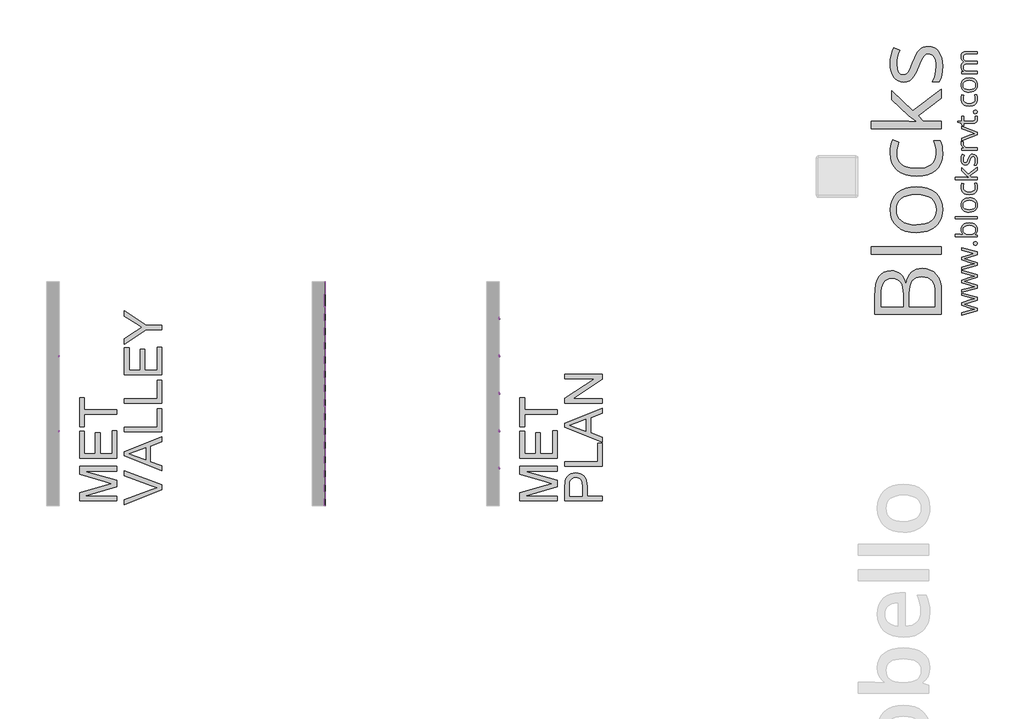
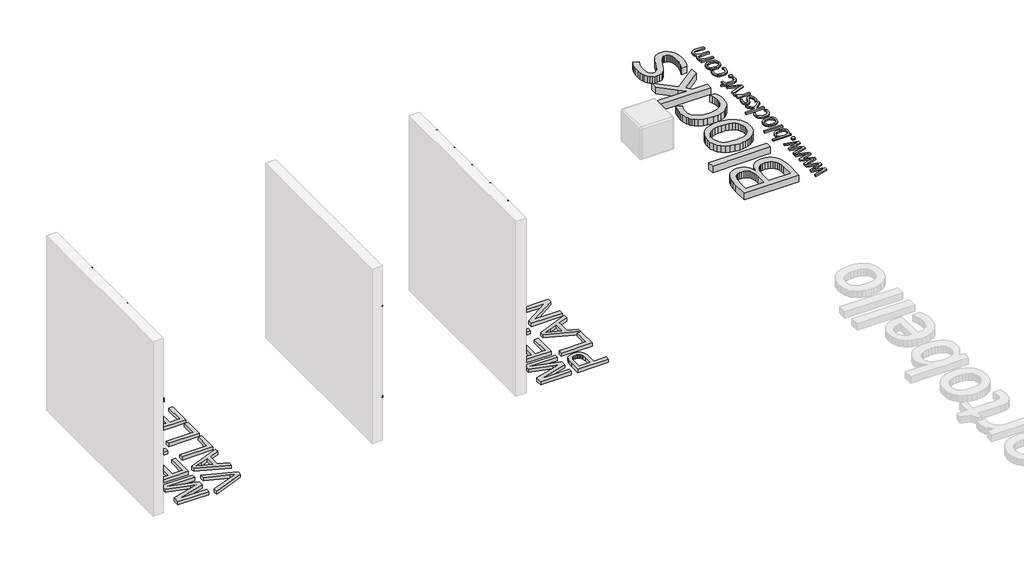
# One storey, part 4 of 4: 31 proxies.
"""IFC4 building model written with IfcOpenShell, lengths in millimetres."""

from ifc_helpers import new_model, si_unit, origin, origin_with_axes, place, context, project, spatial, polyline, outline, extrude, transform, mapped, element, save
from components import black_ff7de772, black_b44c82f6, met_mid_plan_silver_1x120_7f78d727, met_mid_plan_silver_1x120_49bd4cae, met_plan_black_fe5eff52, met_plan_silver_a67b7665, met_plan_silver_266e2bea

model = new_model("IFC4")

# Units and contexts
model_context = context("Model", 3, world=origin())
ifc_project = project(units=[si_unit("LENGTHUNIT", "METRE", prefix="MILLI")], contexts=[model_context])

# Site, building, storey
site = spatial("IfcSite", under=ifc_project)
building = spatial("IfcBuilding", under=site)
storey = spatial("IfcBuildingStorey", under=building, Name="PORTOBELLO - SHOWROOM", Elevation=0.0)

# Proxies
placement = place(None, origin())
element("IfcBuildingElementProxy", 1, Name="25mm OpenSans", ObjectType="25mm OpenSans", at=placement, inside=storey, context=model_context, shape_type="SweptSolid", body=[
    extrude(outline(polyline([(63672.8942842, 26301.8074935), (63563.0826408, 26267.3273871), (63517.3590214, 26255.1094363), (63563.4574246, 26241.6921775), (63672.8942842, 26206.1626765), (63672.8942842, 26173.2566619), (63485.8022284, 26121.911286), (63485.8022284, 26151.7440738), (63593.1402988, 26179.4780724), (63642.8366262, 26190.4217584), (63617.6511571, 26197.8424769), (63593.1402988, 26205.1882387), (63485.8022284, 26239.6683452), (63485.8022284, 26270.5505275), (63593.2152556, 26304.2061096), (63642.5367992, 26317.2485847), (63623.5727406, 26322.3456439), (63485.8022284, 26358.1000151), (63485.8022284, 26387.6329759), (63672.8942842, 26335.6129892), (63672.8942842, 26301.8074935)])), origin_with_axes(), (0.0, 0.0, 1.0), 20.0),
    extrude(outline(polyline([(63672.8942842, 26575.2497289), (63563.0826408, 26540.7696225), (63517.3590214, 26528.5516717), (63563.4574246, 26515.1344129), (63672.8942842, 26479.604912), (63672.8942842, 26446.6988973), (63485.8022284, 26395.3535214), (63485.8022284, 26425.1863092), (63593.1402988, 26452.9203078), (63642.8366262, 26463.8639938), (63617.6511571, 26471.2847124), (63593.1402988, 26478.6304742), (63485.8022284, 26513.1105806), (63485.8022284, 26543.9927629), (63593.2152556, 26577.6483451), (63642.5367992, 26590.6908201), (63623.5727406, 26595.7878793), (63485.8022284, 26631.5422506), (63485.8022284, 26661.0752113), (63672.8942842, 26609.0552246), (63672.8942842, 26575.2497289)])), origin_with_axes(), (0.0, 0.0, 1.0), 20.0),
    extrude(outline(polyline([(63672.8942842, 26848.6919644), (63563.0826408, 26814.2118579), (63517.3590214, 26801.9939072), (63563.4574246, 26788.5766484), (63672.8942842, 26753.0471474), (63672.8942842, 26720.1411328), (63485.8022284, 26668.7957569), (63485.8022284, 26698.6285446), (63593.1402988, 26726.3625433), (63642.8366262, 26737.3062292), (63617.6511571, 26744.7269478), (63593.1402988, 26752.0727096), (63485.8022284, 26786.552816), (63485.8022284, 26817.4349983), (63593.2152556, 26851.0905805), (63642.5367992, 26864.1330555), (63623.5727406, 26869.2301147), (63485.8022284, 26904.984486), (63485.8022284, 26934.5174467), (63672.8942842, 26882.49746), (63672.8942842, 26848.6919644)])), origin_with_axes(), (0.0, 0.0, 1.0), 20.0),
    extrude(outline(polyline([(63653.7803121, 26963.6756237), (63643.370693, 26964.9779973), (63635.8281697, 26968.885118), (63631.2464382, 26975.2283333), (63629.7191944, 26983.8389903), (63631.2464382, 26992.7026263), (63635.8281697, 26999.3550382), (63643.370693, 27003.515138), (63653.7803121, 27004.9018379), (63663.9838001, 27003.4870292), (63671.5075842, 26999.242603), (63676.1455333, 26992.5620824), (63677.6915164, 26983.8389903), (63672.1072383, 26969.4098153), (63664.7333677, 26965.1091716), (63653.7803121, 26963.6756237)])), origin_with_axes(), (0.0, 0.0, 1.0), 20.0),
    extrude(outline(polyline([(63481.0049962, 27152.0419443), (63482.6048544, 27169.6263301), (63487.404429, 27185.1259812), (63495.40372, 27198.5408976), (63506.6027274, 27209.8710793), (63520.7250481, 27218.8729169), (63537.4942792, 27225.3028009), (63578.9734725, 27230.4467081), (63620.5932097, 27225.2559529), (63637.4819031, 27218.767509), (63651.7564798, 27209.6836875), (63663.1030583, 27198.2996306), (63671.2077572, 27184.9104805), (63676.0705766, 27169.5162374), (63677.6915164, 27152.116901), (63675.9768806, 27134.4739553), (63670.8329735, 27118.4238405), (63662.1286205, 27104.4162973), (63649.7326475, 27092.9010661), (63649.7326475, 27090.802277), (63672.8942842, 27084.8057367), (63672.8942842, 27064.4924566), (63409.0465132, 27064.4924566), (63409.0465132, 27092.8261093), (63471.635402, 27092.8261093), (63509.4136056, 27091.4768878), (63496.984839, 27104.0321439), (63488.1071485, 27117.6367946), (63482.7805342, 27133.6400614), (63481.0049962, 27152.0419443)]), holes=[polyline([(63504.9911572, 27148.0692364), (63509.2262137, 27122.799441), (63521.9313834, 27105.7561492), (63544.6620188, 27096.0586193), (63578.9734725, 27092.8261093), (63613.4254702, 27096.1523152), (63636.4278238, 27106.130933), (63649.3859725, 27123.4365734), (63653.7053554, 27148.7438472), (63648.8612752, 27171.8211575), (63634.3290347, 27188.1336209), (63610.727027, 27197.8311509), (63578.6736455, 27201.0636608), (63546.226741, 27197.8311509), (63523.2431265, 27188.1336209), (63509.5541495, 27171.6525048), (63504.9911572, 27148.0692364)])]), origin_with_axes(), (0.0, 0.0, 1.0), 20.0),
    extrude(outline(polyline([(63672.8942842, 27307.7271205), (63672.8942842, 27279.3934679), (63409.0465132, 27279.3934679), (63409.0465132, 27307.7271205), (63672.8942842, 27307.7271205)])), origin_with_axes(), (0.0, 0.0, 1.0), 20.0),
    extrude(outline(polyline([(63579.1983428, 27532.6723367), (63601.1255354, 27531.2317616), (63620.5088833, 27526.9100363), (63637.3483864, 27519.7071608), (63651.6440447, 27509.6231351), (63663.0398135, 27497.0046342), (63671.1796484, 27482.1983331), (63676.0635494, 27465.2042317), (63677.6915164, 27446.0223301), (63674.7026158, 27422.3266265), (63665.7359142, 27401.4605403), (63651.1849345, 27384.2298567), (63631.4431997, 27371.4403607), (63607.2134292, 27363.5136841), (63579.1983428, 27360.8714585), (63557.2805197, 27362.3003216), (63537.9252806, 27366.5869109), (63521.1326255, 27373.7312265), (63506.9025544, 27383.7332682), (63495.5723726, 27396.27447), (63487.4793857, 27411.0362656), (63482.6235935, 27428.0186549), (63481.0049962, 27447.2216381), (63482.6610719, 27465.8179401), (63487.6292992, 27482.4044641), (63495.909678, 27496.9812102), (63507.5022084, 27509.5481784), (63521.9196714, 27519.6649976), (63538.6748481, 27526.8912971), (63557.7677386, 27531.2270768), (63579.1983428, 27532.6723367)]), holes=[polyline([(63578.9734725, 27390.3294625), (63611.1299196, 27393.9086475), (63634.5913833, 27404.6462023), (63648.9268624, 27422.3172569), (63653.7053554, 27446.6969409), (63648.9456015, 27471.095364), (63634.6663401, 27488.8226361), (63611.2236155, 27499.6164086), (63578.9734725, 27503.2143327), (63547.0512653, 27499.6164086), (63523.8427806, 27488.8226361), (63509.704063, 27471.0016681), (63504.9911572, 27446.3221571), (63509.6384759, 27421.9893211), (63523.5804319, 27404.4588105), (63546.7233295, 27393.8617995), (63578.9734725, 27390.3294625)])]), origin_with_axes(), (0.0, 0.0, 1.0), 20.0),
    extrude(outline(polyline([(63677.6915164, 27658.0749847), (63676.1057126, 27638.7314576), (63671.3483011, 27621.7022202), (63663.4192821, 27606.9872726), (63652.3186554, 27594.5866148), (63638.3181394, 27584.7485409), (63621.6894522, 27577.7213453), (63580.5475643, 27572.0995888), (63558.1003592, 27573.5261095), (63538.3562819, 27577.8056717), (63521.3153326, 27584.9382752), (63506.9775111, 27594.9239202), (63495.6145358, 27607.5471059), (63487.4981249, 27622.5923317), (63482.6282783, 27640.0595975), (63481.0049962, 27659.9489035), (63483.778396, 27687.1956833), (63490.2996335, 27708.5208795), (63513.7610973, 27699.7509394), (63507.5022084, 27679.0253972), (63504.9911572, 27659.199336), (63509.680639, 27633.9810733), (63523.7490846, 27615.9680286), (63547.196494, 27605.1602018), (63580.022867, 27601.5575928), (63611.4859642, 27605.0711906), (63634.6663401, 27615.611984), (63648.9456015, 27633.0487987), (63653.7053554, 27657.2504604), (63651.175565, 27681.2178822), (63643.5861937, 27705.7474797), (63668.2469655, 27705.7474797), (63675.3303786, 27684.3473267), (63677.6915164, 27658.0749847)])), origin_with_axes(), (0.0, 0.0, 1.0), 20.0),
    extrude(outline(polyline([(63579.0484293, 27777.3311789), (63551.1645171, 27800.1929886), (63485.8022284, 27860.1583911), (63485.8022284, 27893.5141463), (63565.5562137, 27818.2575661), (63672.8942842, 27898.761119), (63672.8942842, 27864.6557963), (63586.5441046, 27799.0686373), (63604.5337253, 27778.0807464), (63672.8942842, 27778.0807464), (63672.8942842, 27750.0469208), (63409.0465132, 27750.0469208), (63409.0465132, 27778.0807464), (63550.0401658, 27778.0807464), (63579.0484293, 27777.3311789)])), origin_with_axes(), (0.0, 0.0, 1.0), 20.0),
    extrude(outline(polyline([(63622.4483893, 28059.0186572), (63645.9379618, 28054.1183594), (63663.3372981, 28039.4174662), (63674.1029618, 28015.8716762), (63677.6915164, 27984.4366878), (63674.7307246, 27951.1371502), (63665.8483494, 27926.0453771), (63639.3136588, 27926.0453771), (63649.8450826, 27955.2035541), (63653.7053554, 27985.1862553), (63651.9251325, 28005.002947), (63646.5844638, 28019.6288834), (63637.5896534, 28028.6518026), (63624.8470054, 28031.6594423), (63614.559191, 28029.2701958), (63605.8829469, 28022.1024563), (63587.2936721, 27984.8864283), (63570.0536189, 27947.4830085), (63553.3757413, 27930.9550445), (63531.0011505, 27925.5206799), (63510.2756083, 27930.2054769), (63494.422255, 27944.2598681), (63484.3593109, 27966.4845454), (63481.0049962, 27995.6802008), (63484.1157014, 28025.7191196), (63493.4478172, 28055.120906), (63516.6094539, 28044.9267876), (63507.8957313, 28017.8673997), (63504.9911572, 27993.5064549), (63506.5933578, 27975.6854869), (63511.3999596, 27962.8491429), (63519.0361788, 27955.091119), (63529.1272317, 27952.505111), (63542.1322283, 27956.3653838), (63552.3263468, 27968.8456832), (63566.380738, 28001.9016113), (63578.7111239, 28029.9822849), (63591.1164665, 28047.2129686), (63605.1708577, 28056.067235), (63622.4483893, 28059.0186572)])), origin_with_axes(), (0.0, 0.0, 1.0), 20.0),
    extrude(outline(polyline([(63481.0049962, 28191.46724), (63482.878915, 28214.1041794), (63507.5396868, 28210.1314715), (63504.9911572, 28189.4434076), (63509.6853238, 28168.1088418), (63523.7678238, 28150.1285906), (63544.8587802, 28137.9012703), (63570.5783161, 28133.8254968), (63672.8942842, 28133.8254968), (63672.8942842, 28105.4918441), (63485.8022284, 28105.4918441), (63485.8022284, 28128.8783511), (63519.3828538, 28132.1014915), (63503.0610208, 28145.087749), (63490.9742443, 28158.8610524), (63483.4973082, 28174.4333178), (63481.0049962, 28191.46724)])), origin_with_axes(), (0.0, 0.0, 1.0), 20.0),
    extrude(outline(polyline([(63672.8942842, 28291.0847649), (63485.8022284, 28219.1262819), (63485.8022284, 28249.9335074), (63596.738223, 28290.7849379), (63647.2590746, 28306.9755965), (63609.780698, 28320.3928553), (63485.8022284, 28365.8166477), (63485.8022284, 28396.6238733), (63672.8942842, 28324.6653903), (63672.8942842, 28291.0847649)])), origin_with_axes(), (0.0, 0.0, 1.0), 20.0),
    extrude(outline(polyline([(63653.7053554, 28487.9961554), (63652.5810041, 28502.687679), (63650.2573447, 28513.9311919), (63672.4445437, 28513.9311919), (63676.1923813, 28500.2141061), (63677.6915164, 28483.9484907), (63674.1310706, 28459.9435905), (63663.4497333, 28442.7972332), (63645.6475044, 28432.5094188), (63620.724384, 28429.0801474), (63509.7883894, 28429.0801474), (63509.7883894, 28401.9458028), (63495.7714765, 28401.9458028), (63483.6284825, 28428.9302339), (63442.6271386, 28440.9982711), (63442.6271386, 28457.4887568), (63485.8022284, 28457.4887568), (63485.8022284, 28512.5819704), (63509.7883894, 28512.5819704), (63509.7883894, 28457.4887568), (63619.0003787, 28457.4887568), (63633.8324462, 28459.5219588), (63644.7480234, 28465.6215645), (63651.4660224, 28475.2816161), (63653.7053554, 28487.9961554)])), origin_with_axes(), (0.0, 0.0, 1.0), 20.0),
    extrude(outline(polyline([(63653.7803121, 28546.7622498), (63643.370693, 28548.0646234), (63635.8281697, 28551.9717441), (63631.2464382, 28558.3149594), (63629.7191944, 28566.9256164), (63631.2464382, 28575.7892525), (63635.8281697, 28582.4416643), (63643.370693, 28586.6017641), (63653.7803121, 28587.988464), (63663.9838001, 28586.5736553), (63671.5075842, 28582.3292292), (63676.1455333, 28575.6487085), (63677.6915164, 28566.9256164), (63672.1072383, 28552.4964414), (63664.7333677, 28548.1957977), (63653.7803121, 28546.7622498)])), origin_with_axes(), (0.0, 0.0, 1.0), 20.0),
    extrude(outline(polyline([(63677.6915164, 28723.0605332), (63676.1057126, 28703.7170061), (63671.3483011, 28686.6877687), (63663.4192821, 28671.9728211), (63652.3186554, 28659.5721633), (63638.3181394, 28649.7340894), (63621.6894522, 28642.7068938), (63580.5475643, 28637.0851373), (63558.1003592, 28638.511658), (63538.3562819, 28642.7912202), (63521.3153326, 28649.9238237), (63506.9775111, 28659.9094687), (63495.6145358, 28672.5326544), (63487.4981249, 28687.5778802), (63482.6282783, 28705.045146), (63481.0049962, 28724.934452), (63483.778396, 28752.1812318), (63490.2996335, 28773.506428), (63513.7610973, 28764.7364879), (63507.5022084, 28744.0109457), (63504.9911572, 28724.1848845), (63509.680639, 28698.9666218), (63523.7490846, 28680.9535771), (63547.196494, 28670.1457503), (63580.022867, 28666.5431413), (63611.4859642, 28670.0567391), (63634.6663401, 28680.5975325), (63648.9456015, 28698.0343472), (63653.7053554, 28722.2360089), (63651.175565, 28746.2034307), (63643.5861937, 28770.7330282), (63668.2469655, 28770.7330282), (63675.3303786, 28749.3328751), (63677.6915164, 28723.0605332)])), origin_with_axes(), (0.0, 0.0, 1.0), 20.0),
    extrude(outline(polyline([(63579.1983428, 28976.639229), (63601.1255354, 28975.1986539), (63620.5088833, 28970.8769286), (63637.3483864, 28963.6740531), (63651.6440447, 28953.5900274), (63663.0398135, 28940.9715265), (63671.1796484, 28926.1652254), (63676.0635494, 28909.171124), (63677.6915164, 28889.9892224), (63674.7026158, 28866.2935188), (63665.7359142, 28845.4274327), (63651.1849345, 28828.196749), (63631.4431997, 28815.407253), (63607.2134292, 28807.4805764), (63579.1983428, 28804.8383508), (63557.2805197, 28806.2672139), (63537.9252806, 28810.5538033), (63521.1326255, 28817.6981188), (63506.9025544, 28827.7001605), (63495.5723726, 28840.2413623), (63487.4793857, 28855.0031579), (63482.6235935, 28871.9855473), (63481.0049962, 28891.1885304), (63482.6610719, 28909.7848324), (63487.6292992, 28926.3713564), (63495.909678, 28940.9481025), (63507.5022084, 28953.5150707), (63521.9196714, 28963.6318899), (63538.6748481, 28970.8581894), (63557.7677386, 28975.1939691), (63579.1983428, 28976.639229)]), holes=[polyline([(63578.9734725, 28834.2963548), (63611.1299196, 28837.8755398), (63634.5913833, 28848.6130947), (63648.9268624, 28866.2841492), (63653.7053554, 28890.6638332), (63648.9456015, 28915.0622563), (63634.6663401, 28932.7895284), (63611.2236155, 28943.5833009), (63578.9734725, 28947.181225), (63547.0512653, 28943.5833009), (63523.8427806, 28932.7895284), (63509.704063, 28914.9685604), (63504.9911572, 28890.2890494), (63509.6384759, 28865.9562134), (63523.5804319, 28848.4257028), (63546.7233295, 28837.8286918), (63578.9734725, 28834.2963548)])]), origin_with_axes(), (0.0, 0.0, 1.0), 20.0),
    extrude(outline(polyline([(63672.8942842, 29265.6724691), (63550.1151225, 29265.6724691), (63530.3733877, 29263.273853), (63516.2721485, 29256.0780047), (63507.811405, 29243.8225755), (63504.9911572, 29226.2452169), (63508.8233212, 29203.1772762), (63520.3198132, 29187.0428351), (63539.7804602, 29177.5420666), (63567.5050893, 29174.3751438), (63672.8942842, 29174.3751438), (63672.8942842, 29145.9665343), (63550.1151225, 29145.9665343), (63530.3733877, 29143.5679182), (63516.2721485, 29136.3720699), (63507.811405, 29124.0791624), (63504.9911572, 29106.3893687), (63509.0200826, 29083.2089928), (63521.1068591, 29067.1869868), (63542.3570986, 29057.854871), (63573.8764133, 29054.7441658), (63672.8942842, 29054.7441658), (63672.8942842, 29026.4105131), (63485.8022284, 29026.4105131), (63485.8022284, 29049.4971931), (63509.7883894, 29054.069555), (63497.7109825, 29065.1537849), (63488.6131066, 29078.1681511), (63482.9070238, 29093.6935686), (63481.0049962, 29110.9617306), (63482.9726109, 29131.0595101), (63488.8754552, 29147.3532343), (63498.7135291, 29159.8429033), (63512.4868325, 29168.528517), (63499.4630966, 29180.1561834), (63489.4751093, 29194.201205), (63483.1225244, 29211.2444967), (63481.0049962, 29230.5177519), (63485.1088784, 29258.3735553), (63497.4205251, 29278.2277252), (63518.7644605, 29290.1177402), (63549.965209, 29294.0810785), (63672.8942842, 29294.0810785), (63672.8942842, 29265.6724691)])), origin_with_axes(), (0.0, 0.0, 1.0), 20.0),
])
element("IfcBuildingElementProxy", 2, Name="450mm Arial", ObjectType="450mm Arial", at=placement, inside=storey, context=model_context, shape_type="SweptSolid", body=[
    extrude(outline(polyline([(58622.423094, 23886.6436163), (58172.7669512, 23886.6436163), (58172.7669512, 23983.3592076), (58489.6998819, 24075.3542876), (58555.8968189, 24093.9069946), (58484.2109153, 24113.9966123), (58172.7669512, 24204.4547817), (58172.7669512, 24301.170373), (58622.423094, 24301.170373), (58622.423094, 24244.9633551), (58228.973969, 24244.9633551), (58622.423094, 24132.0004228), (58622.423094, 24055.8135665), (58228.973969, 23942.8506342), (58622.423094, 23942.8506342), (58622.423094, 23886.6436163)])), origin_with_axes(), (0.0, 0.0, 1.0), 50.0),
    extrude(outline(polyline([(58622.423094, 24399.5326542), (58172.7669512, 24399.5326542), (58172.7669512, 24722.7230069), (58228.973969, 24722.7230069), (58228.973969, 24455.7396721), (58362.4656364, 24455.7396721), (58362.4656364, 24708.6712524), (58418.6726543, 24708.6712524), (58418.6726543, 24455.7396721), (58566.2160761, 24455.7396721), (58566.2160761, 24729.7488841), (58622.423094, 24729.7488841), (58622.423094, 24399.5326542)])), origin_with_axes(), (0.0, 0.0, 1.0), 50.0),
    extrude(outline(polyline([(58622.423094, 24926.4734466), (58228.973969, 24926.4734466), (58228.973969, 24778.9300247), (58172.7669512, 24778.9300247), (58172.7669512, 25130.2238863), (58228.973969, 25130.2238863), (58228.973969, 24982.6804644), (58622.423094, 24982.6804644), (58622.423094, 24926.4734466)])), origin_with_axes(), (0.0, 0.0, 1.0), 50.0),
    extrude(outline(polyline([(59162.8551772, 23886.6436163), (58713.1990343, 23886.6436163), (58713.1990343, 24053.2886419), (58717.4804283, 24120.4735929), (58725.4805971, 24150.4296281), (58738.5031703, 24175.0888105), (58757.1382119, 24194.9451471), (58781.9757857, 24210.4926449), (58811.2731448, 24220.5374538), (58843.2875425, 24223.8857234), (58870.8901832, 24221.6249553), (58896.2835148, 24214.842651), (58919.4675375, 24203.5388104), (58940.442251, 24187.7134336), (58957.8285527, 24165.9874177), (58970.2473396, 24136.9816599), (58977.6986118, 24100.6961602), (58980.1823691, 24057.1309185), (58980.1823691, 23942.8506342), (59162.8551772, 23942.8506342), (59162.8551772, 23886.6436163)]), holes=[polyline([(58923.9753513, 23942.8506342), (58923.9753513, 24060.4242985), (58918.8157227, 24110.2641151), (58912.3661869, 24128.844267), (58903.3368369, 24143.1979146), (58891.9678149, 24153.9082606), (58878.4992631, 24161.5585078), (58862.9311816, 24166.1486561), (58845.2635704, 24167.6787056), (58820.0143241, 24164.06971), (58798.7171338, 24153.2427234), (58782.6893513, 24136.5425426), (58773.2483288, 24115.3139643), (58769.4060522, 24059.1069465), (58769.4060522, 23942.8506342), (58923.9753513, 23942.8506342)])]), origin_with_axes(), (0.0, 0.0, 1.0), 50.0),
    extrude(outline(polyline([(59162.8551772, 24301.170373), (58713.1990343, 24301.170373), (58713.1990343, 24357.3773908), (59106.6481593, 24357.3773908), (59106.6481593, 24582.2054622), (59162.8551772, 24582.2054622), (59162.8551772, 24301.170373)])), origin_with_axes(), (0.0, 0.0, 1.0), 50.0),
    extrude(outline(polyline([(59162.8551772, 24593.0736161), (58713.1990343, 24772.5628235), (58713.1990343, 24820.4266121), (59162.8551772, 24999.9158195), (59162.8551772, 24940.525201), (59022.3376325, 24889.0386945), (59022.3376325, 24703.8409618), (59162.8551772, 24652.4642345), (59162.8551772, 24593.0736161)]), holes=[polyline([(58966.1306147, 24724.4794762), (58966.1306147, 24868.5099594), (58855.5828276, 24828.001386), (58769.4060522, 24796.4947178), (58845.9222464, 24768.5009882), (58966.1306147, 24724.4794762)])]), origin_with_axes(), (0.0, 0.0, 1.0), 50.0),
    extrude(outline(polyline([(59162.8551772, 25059.965114), (58713.1990343, 25059.965114), (58713.1990343, 25120.1241878), (59069.4329658, 25355.0519577), (58713.1990343, 25355.0519577), (58713.1990343, 25411.2589755), (59162.8551772, 25411.2589755), (59162.8551772, 25351.0999018), (58806.5114663, 25116.1721318), (59162.8551772, 25116.1721318), (59162.8551772, 25059.965114)])), origin_with_axes(), (0.0, 0.0, 1.0), 50.0),
])
element("IfcBuildingElementProxy", 3, Name="450mm Arial", ObjectType="450mm Arial", at=placement, inside=storey, context=model_context, shape_type="SweptSolid", body=[
    extrude(outline(polyline([(53322.423094, 23886.6436163), (52872.7669512, 23886.6436163), (52872.7669512, 23983.3592076), (53189.6998819, 24075.3542876), (53255.8968189, 24093.9069946), (53184.2109153, 24113.9966123), (52872.7669512, 24204.4547817), (52872.7669512, 24301.170373), (53322.423094, 24301.170373), (53322.423094, 24244.9633551), (52928.973969, 24244.9633551), (53322.423094, 24132.0004228), (53322.423094, 24055.8135665), (52928.973969, 23942.8506342), (53322.423094, 23942.8506342), (53322.423094, 23886.6436163)])), origin_with_axes(), (0.0, 0.0, 1.0), 50.0),
    extrude(outline(polyline([(53322.423094, 24399.5326542), (52872.7669512, 24399.5326542), (52872.7669512, 24722.7230069), (52928.973969, 24722.7230069), (52928.973969, 24455.7396721), (53062.4656364, 24455.7396721), (53062.4656364, 24708.6712524), (53118.6726543, 24708.6712524), (53118.6726543, 24455.7396721), (53266.2160761, 24455.7396721), (53266.2160761, 24729.7488841), (53322.423094, 24729.7488841), (53322.423094, 24399.5326542)])), origin_with_axes(), (0.0, 0.0, 1.0), 50.0),
    extrude(outline(polyline([(53322.423094, 24926.4734466), (52928.973969, 24926.4734466), (52928.973969, 24778.9300247), (52872.7669512, 24778.9300247), (52872.7669512, 25130.2238863), (52928.973969, 25130.2238863), (52928.973969, 24982.6804644), (53322.423094, 24982.6804644), (53322.423094, 24926.4734466)])), origin_with_axes(), (0.0, 0.0, 1.0), 50.0),
    extrude(outline(polyline([(53862.8551772, 24248.8056317), (53413.1990343, 24428.2948391), (53413.1990343, 24476.1586278), (53862.8551772, 24655.6478352), (53862.8551772, 24596.2572167), (53722.3376325, 24544.7707101), (53722.3376325, 24359.5729775), (53862.8551772, 24308.1962502), (53862.8551772, 24248.8056317)]), holes=[polyline([(53666.1306147, 24380.2114918), (53666.1306147, 24524.2419751), (53555.5828276, 24483.7334017), (53469.4060522, 24452.2267334), (53545.9222464, 24424.2330039), (53666.1306147, 24380.2114918)])]), origin_with_axes(), (0.0, 0.0, 1.0), 50.0),
    extrude(outline(polyline([(53862.8551772, 24019.4766077), (53413.1990343, 23840.536297), (53413.1990343, 23900.6953708), (53737.1578423, 24020.4646217), (53810.1610979, 24044.725854), (53737.1578423, 24068.6577483), (53413.1990343, 24188.7563373), (53413.1990343, 24248.9154111), (53862.8551772, 24077.5498742), (53862.8551772, 24019.4766077)])), origin_with_axes(), (0.0, 0.0, 1.0), 50.0),
    extrude(outline(polyline([(53862.8551772, 24715.6971296), (53413.1990343, 24715.6971296), (53413.1990343, 24771.9041475), (53806.6481593, 24771.9041475), (53806.6481593, 24996.7322189), (53862.8551772, 24996.7322189), (53862.8551772, 24715.6971296)])), origin_with_axes(), (0.0, 0.0, 1.0), 50.0),
    extrude(outline(polyline([(53862.8551772, 25059.965114), (53413.1990343, 25059.965114), (53413.1990343, 25116.1721318), (53806.6481593, 25116.1721318), (53806.6481593, 25341.0002032), (53862.8551772, 25341.0002032), (53862.8551772, 25059.965114)])), origin_with_axes(), (0.0, 0.0, 1.0), 50.0),
    extrude(outline(polyline([(53862.8551772, 25404.2330983), (53413.1990343, 25404.2330983), (53413.1990343, 25727.423451), (53469.4060522, 25727.423451), (53469.4060522, 25460.4401162), (53602.8977196, 25460.4401162), (53602.8977196, 25713.3716965), (53659.1047374, 25713.3716965), (53659.1047374, 25460.4401162), (53806.6481593, 25460.4401162), (53806.6481593, 25734.4493282), (53862.8551772, 25734.4493282), (53862.8551772, 25404.2330983)])), origin_with_axes(), (0.0, 0.0, 1.0), 50.0),
    extrude(outline(polyline([(53862.8551772, 25945.2256451), (53672.3880366, 25945.2256451), (53413.1990343, 25769.5787144), (53413.1990343, 25835.8854307), (53551.6307717, 25929.63698), (53622.218882, 25977.610548), (53546.5809224, 26025.6938953), (53413.1990343, 26110.7728774), (53413.1990343, 26177.0795938), (53672.3880366, 26001.432663), (53862.8551772, 26001.432663), (53862.8551772, 25945.2256451)])), origin_with_axes(), (0.0, 0.0, 1.0), 50.0),
])
element("IfcBuildingElementProxy", 4, Name="80mm OpenSans", ObjectType="80mm OpenSans", at=placement, inside=storey, context=model_context, shape_type="SweptSolid", body=[
    extrude(outline(polyline([(62443.5108772, 26130.9533394), (62443.5108772, 26355.93646), (62446.4478563, 26429.7665579), (62455.2587939, 26492.6149076), (62469.9436897, 26544.4815091), (62490.5025439, 26585.3663624), (62517.4010667, 26616.3360942), (62551.1049684, 26638.4573311), (62591.6142489, 26651.7300733), (62638.9289082, 26656.1543207), (62672.5877411, 26653.6830518), (62703.1368314, 26646.2692451), (62730.576179, 26633.9129005), (62754.9057839, 26616.614018), (62775.6899818, 26594.5829185), (62792.4931082, 26568.0299227), (62805.315163, 26536.9550305), (62814.1561464, 26501.358242), (62819.4442112, 26501.358242), (62829.3593327, 26543.8918598), (62843.3606861, 26580.7543286), (62861.4482713, 26611.9456483), (62883.6220885, 26637.465819), (62909.8821376, 26657.3148406), (62940.2284185, 26671.4927132), (62974.6609314, 26679.9994368), (63013.1796761, 26682.8350113), (63064.4153153, 26678.3206265), (63109.7169045, 26664.7774719), (63149.0844438, 26642.2055475), (63182.517933, 26610.6048535), (63209.1760892, 26570.9068102), (63228.2176294, 26524.0428382), (63239.6425535, 26470.0129375), (63243.4508615, 26408.817108), (63243.4508615, 26130.9533394), (62443.5108772, 26130.9533394)]), holes=[polyline([(62781.9470244, 26223.9752066), (62781.9470244, 26375.8868863), (62780.0165803, 26421.3687505), (62774.225248, 26459.9851441), (62764.5730274, 26491.7360673), (62751.0599186, 26516.62152), (62732.9798448, 26535.3926477), (62709.6267291, 26548.8005961), (62681.0005715, 26556.8453652), (62647.101372, 26559.5269548), (62615.8987851, 26556.5373955), (62589.3533007, 26547.5687174), (62567.4649188, 26532.6209206), (62550.2336395, 26511.6940051), (62537.1937524, 26484.2621689), (62527.8795474, 26449.7996102), (62522.2910244, 26408.306329), (62520.4281834, 26359.7823253), (62520.4281834, 26223.9752066), (62781.9470244, 26223.9752066)]), polyline([(62858.8643306, 26223.9752066), (63166.5335553, 26223.9752066), (63166.5335553, 26389.5877815), (63164.122378, 26434.6940729), (63156.8888462, 26473.8663142), (63144.8329599, 26507.1045056), (63127.9547189, 26534.408647), (63105.9536652, 26555.7036239), (63078.5293405, 26570.9143217), (63045.6817449, 26580.0407403), (63007.4108782, 26583.0828799), (62971.7164407, 26579.9731372), (62941.0697016, 26570.6439092), (62915.4706606, 26555.095196), (62894.9193179, 26533.3269974), (62879.1452609, 26505.2191303), (62867.8780774, 26470.6514112), (62861.1177673, 26429.6238403), (62858.8643306, 26382.1364174), (62858.8643306, 26223.9752066)])]), origin_with_axes(), (0.0, 0.0, 1.0), 100.0),
    extrude(outline(polyline([(63243.4508615, 26944.5942189), (63243.4508615, 26853.735651), (62397.3604935, 26853.735651), (62397.3604935, 26944.5942189), (63243.4508615, 26944.5942189)])), origin_with_axes(), (0.0, 0.0, 1.0), 100.0),
    extrude(outline(polyline([(62942.9926342, 27665.934331), (63013.3073709, 27661.3147858), (63075.4646666, 27647.45615), (63129.4645215, 27624.3584238), (63175.3069356, 27592.0216071), (63211.8501675, 27551.5573953), (63237.9524759, 27504.077484), (63253.613861, 27449.581873), (63258.8343227, 27388.0705624), (63256.4381684, 27348.9433898), (63249.2497053, 27312.0846767), (63237.2689335, 27277.4944233), (63220.4958529, 27245.1726295), (63199.2459448, 27215.7652805), (63173.8346902, 27189.9183615), (63144.2620892, 27167.6318725), (63110.5281418, 27148.9058135), (63073.196207, 27134.0782), (63032.8296442, 27123.4870475), (62989.4284532, 27117.132356), (62942.9926342, 27115.0141254), (62872.7079434, 27119.5961134), (62810.6407851, 27133.3420773), (62756.7911593, 27156.2520171), (62711.159066, 27188.3259329), (62674.8261549, 27228.5422666), (62648.8740755, 27275.8794603), (62633.3028279, 27330.337514), (62628.112412, 27391.9164277), (62633.4230112, 27451.5498744), (62649.3548087, 27504.7384921), (62675.9078045, 27551.4822808), (62713.0819987, 27591.7812405), (62759.3150084, 27624.2232176), (62813.0444509, 27647.3960584), (62874.2703262, 27661.2997628), (62942.9926342, 27665.934331)]), holes=[polyline([(62942.2715345, 27209.4781921), (62997.3154817, 27212.3475682), (63045.3887981, 27220.9556964), (63086.4914836, 27235.3025767), (63120.6235382, 27255.3882092), (63147.439435, 27281.0323189), (63166.593647, 27312.0546309), (63178.0861742, 27348.4551451), (63181.9170166, 27390.2338616), (63178.1011971, 27432.0276011), (63166.6537386, 27468.473184), (63147.5746412, 27499.5706106), (63120.8639048, 27525.3198806), (63086.8069647, 27545.5106735), (63045.6892563, 27559.9326684), (62997.5107796, 27568.5858654), (62942.2715345, 27571.4702643), (62887.5956486, 27568.5858654), (62839.9054164, 27559.9326684), (62799.2008381, 27545.5106735), (62765.4819135, 27525.3198806), (62739.0340781, 27499.495496), (62720.142767, 27468.1727258), (62708.8079804, 27431.35157), (62705.0297182, 27389.0320287), (62708.7554002, 27347.2908695), (62719.9324463, 27311.0030271), (62738.5608564, 27280.1685015), (62764.6406305, 27254.7872928), (62798.0966541, 27234.9645612), (62838.8538126, 27220.8054673), (62886.9121061, 27212.3100109), (62942.2715345, 27209.4781921)])]), origin_with_axes(), (0.0, 0.0, 1.0), 100.0),
    extrude(outline(polyline([(63258.8343227, 28068.0676224), (63253.7490672, 28006.0380214), (63238.4933008, 27951.4297386), (63213.0670233, 27904.242774), (63177.4702348, 27864.4771276), (63132.5742642, 27832.9290137), (63079.2504403, 27810.3946467), (63017.4987631, 27796.8740265), (62947.3192327, 27792.367153), (62875.3369529, 27796.9416296), (62812.0228929, 27810.6650591), (62757.3770529, 27833.5374416), (62711.3994326, 27865.5587772), (62691.8790372, 27884.8275389), (62674.9613611, 27906.0380119), (62660.6464044, 27929.1901962), (62648.9341672, 27954.2840917), (62633.3178508, 28010.2970168), (62628.112412, 28074.076787), (62630.3358029, 28117.793459), (62637.0059756, 28161.4500394), (62646.6807305, 28200.3593799), (62657.9178682, 28229.834332), (62733.1526083, 28201.7114419), (62713.0819987, 28135.250082), (62707.0427883, 28101.3884398), (62705.0297182, 28071.6731211), (62708.7892018, 28028.3508005), (62720.0676525, 27990.8047893), (62738.8650703, 27959.0350875), (62765.1814553, 27933.0416951), (62799.0168074, 27912.8246121), (62840.3711267, 27898.3838385), (62889.2444131, 27889.7193744), (62945.6366666, 27886.8312197), (62999.4036664, 27889.6480156), (63046.5305393, 27898.0984032), (63087.0172855, 27912.1823826), (63120.8639048, 27931.8999538), (63147.5746412, 27957.1459563), (63166.6537386, 27987.8152299), (63178.1011971, 28023.9077745), (63181.9170166, 28065.42359), (63179.8889235, 28103.6268536), (63173.8046444, 28142.2808045), (63163.6641793, 28181.3854428), (63149.467528, 28220.9407685), (63228.5481334, 28220.9407685), (63241.7983413, 28188.5814174), (63251.2627754, 28152.3161093), (63256.9414359, 28112.1448443), (63258.8343227, 28068.0676224)])), origin_with_axes(), (0.0, 0.0, 1.0), 100.0),
    extrude(outline(polyline([(62942.5119011, 28452.6541533), (62853.0955326, 28523.8026616), (62643.4958733, 28716.095927), (62643.4958733, 28823.0590559), (62899.2459163, 28581.7310078), (63243.4508615, 28839.8847167), (63243.4508615, 28730.5179219), (62966.5485592, 28520.1971628), (63024.2365389, 28452.8945199), (63243.4508615, 28452.8945199), (63243.4508615, 28362.9974183), (62397.3604935, 28362.9974183), (62397.3604935, 28452.8945199), (62849.4900339, 28452.8945199), (62942.5119011, 28448.3275549), (62942.5119011, 28452.6541533)])), origin_with_axes(), (0.0, 0.0, 1.0), 100.0),
    extrude(outline(polyline([(63081.6841519, 29353.7884686), (63121.7878138, 29349.8599773), (63157.0090295, 29338.0745033), (63187.347799, 29318.4320467), (63212.8041223, 29290.9326075), (63232.942335, 29256.3423541), (63247.3267726, 29215.427455), (63255.9574352, 29168.1879102), (63258.8343227, 29114.6237197), (63256.4607027, 29057.9422751), (63249.3398428, 29007.8408657), (63237.4717428, 28964.3194915), (63220.8564028, 28927.3781524), (63135.7666328, 28927.3781524), (63154.9058219, 28972.5069782), (63169.5381376, 29020.8807528), (63178.8222968, 29069.9155355), (63181.9170166, 29117.0273855), (63180.48984, 29150.8815163), (63176.2083102, 29180.5743006), (63169.0724273, 29206.1057384), (63159.0821913, 29227.4758299), (63146.1624875, 29244.3540708), (63130.2382015, 29256.4099572), (63111.3093331, 29263.643489), (63089.3758826, 29266.0546662), (63072.2347407, 29264.139245), (63056.3855692, 29258.3929815), (63041.8283681, 29248.8158755), (63028.5631374, 29235.4079271), (63001.0411637, 29190.2490555), (62968.9522251, 29116.0659192), (62939.2669522, 29043.895853), (62913.6679112, 28996.1229949), (62888.5195576, 28965.08566), (62860.1863468, 28943.1221636), (62827.2861709, 28930.0522307), (62788.4369221, 28925.6955864), (62753.2532637, 28929.4513142), (62721.9755622, 28940.7184977), (62694.6038177, 28959.4971369), (62671.1380302, 28985.7872318), (62652.3143222, 29018.6273161), (62638.8688166, 29057.0559233), (62630.8015132, 29101.0730536), (62628.112412, 29150.678707), (62630.6062153, 29199.0975503), (62638.0876252, 29247.0056146), (62650.5566416, 29294.4029), (62668.0132646, 29341.2894064), (62742.2865384, 29308.5995512), (62725.9866796, 29264.1317336), (62714.3439233, 29221.8272152), (62707.3582695, 29181.685996), (62705.0297182, 29143.7080761), (62710.1675539, 29086.5609213), (62716.5898485, 29063.9814855), (62725.581061, 29045.3981441), (62736.840733, 29030.8860118), (62750.0684065, 29020.5202029), (62765.2640813, 29014.3007176), (62782.4277576, 29012.2275558), (62805.1123537, 29015.3222756), (62824.1313595, 29024.6064348), (62840.8969286, 29040.8011333), (62856.8212146, 29064.6274707), (62875.8402204, 29104.9489648), (62901.8899487, 29170.6291333), (62921.6300543, 29220.0019315), (62941.4302514, 29260.676464), (62961.2905403, 29292.6527308), (62981.2109207, 29315.930732), (63002.4533174, 29332.4934918), (63026.2796548, 29344.3240345), (63052.689933, 29351.4223601), (63081.6841519, 29353.7884686)])), origin_with_axes(), (0.0, 0.0, 1.0), 100.0),
])
black_shape = black_ff7de772(model_context)
element("IfcBuildingElementProxy", 5, Name="PORTOBELLO - METALLICA MET VALLEY 1,0X120 : BLACK", ObjectType="PORTOBELLO - METALLICA MET VALLEY 1,0X120 : BLACK", at=placement, inside=storey, context=model_context, shape_type="MappedRepresentation", body=[
    mapped(black_shape, transform((52625.3154392, 25624.9733076, 600.0), x_axis=(0.0, 1.0, 0.0), y_axis=(0.0, 0.0, 1.0), z_axis=(1.0, 0.0, 0.0))),
])
element("IfcBuildingElementProxy", 6, Name="PORTOBELLO - METALLICA MET VALLEY 1,0X120 : BLACK", ObjectType="PORTOBELLO - METALLICA MET VALLEY 1,0X120 : BLACK", at=placement, inside=storey, context=model_context, shape_type="MappedRepresentation", body=[
    mapped(black_shape, transform((52625.3154392, 25624.9733076, 1800.0), x_axis=(0.0, 1.0, 0.0), y_axis=(0.0, 0.0, 1.0), z_axis=(1.0, 0.0, 0.0))),
])
black_2_shape = black_b44c82f6(model_context)
element("IfcBuildingElementProxy", 7, Name="PORTOBELLO - METALLICA MET VALLEY 1,0X120 : BLACK", ObjectType="PORTOBELLO - METALLICA MET VALLEY 1,0X120 : BLACK", at=placement, inside=storey, context=model_context, shape_type="MappedRepresentation", body=[
    mapped(black_2_shape, transform((52626.6154392, 25624.9733076, 3000.0), x_axis=(0.0, 1.0, 0.0), y_axis=(0.0, 0.0, 1.0), z_axis=(1.0, 0.0, 0.0))),
])
met_mid_plan_silver_1x120_shape = met_mid_plan_silver_1x120_7f78d727(model_context)
element("IfcBuildingElementProxy", 8, Name="PORTOBELLO - METALLICA MET PLAN : MET MID PLAN SILVER 1X120", ObjectType="PORTOBELLO - METALLICA MET PLAN : MET MID PLAN SILVER 1X120", at=placement, inside=storey, context=model_context, shape_type="MappedRepresentation", body=[
    mapped(met_mid_plan_silver_1x120_shape, transform((55825.3154392, 24424.9733076, 2082.7289948), x_axis=(0.0, 0.0, 1.0), y_axis=(0.0, -1.0, 0.0), z_axis=(1.0, 0.0, 0.0))),
])
element("IfcBuildingElementProxy", 9, Name="PORTOBELLO - METALLICA MET PLAN : MET MID PLAN SILVER 1X120", ObjectType="PORTOBELLO - METALLICA MET PLAN : MET MID PLAN SILVER 1X120", at=placement, inside=storey, context=model_context, shape_type="MappedRepresentation", body=[
    mapped(met_mid_plan_silver_1x120_shape, transform((55825.3154392, 25624.9733076, 2082.7289948), x_axis=(0.0, 0.0, 1.0), y_axis=(0.0, -1.0, 0.0), z_axis=(1.0, 0.0, 0.0))),
])
met_mid_plan_silver_1x120_2_shape = met_mid_plan_silver_1x120_49bd4cae(model_context)
element("IfcBuildingElementProxy", 10, Name="PORTOBELLO - METALLICA MET PLAN : MET MID PLAN SILVER 1X120", ObjectType="PORTOBELLO - METALLICA MET PLAN : MET MID PLAN SILVER 1X120", at=placement, inside=storey, context=model_context, shape_type="MappedRepresentation", body=[
    mapped(met_mid_plan_silver_1x120_2_shape, transform((55825.3154392, 26824.9733076, 2082.7289948), x_axis=(0.0, 0.0, 1.0), y_axis=(0.0, -1.0, 0.0), z_axis=(1.0, 0.0, 0.0))),
])
element("IfcBuildingElementProxy", 11, Name="PORTOBELLO - METALLICA MET PLAN : MET PLAN BLACK", ObjectType="PORTOBELLO - METALLICA MET PLAN : MET PLAN BLACK", at=placement, inside=storey, context=model_context, shape_type="MappedRepresentation", body=[
    mapped(met_mid_plan_silver_1x120_shape, transform((57925.3154392, 26074.9733076, 600.0), x_axis=(0.0, 1.0, 0.0), y_axis=(0.0, 0.0, 1.0), z_axis=(1.0, 0.0, 0.0))),
])
element("IfcBuildingElementProxy", 12, Name="PORTOBELLO - METALLICA MET PLAN : MET PLAN BLACK", ObjectType="PORTOBELLO - METALLICA MET PLAN : MET PLAN BLACK", at=placement, inside=storey, context=model_context, shape_type="MappedRepresentation", body=[
    mapped(met_mid_plan_silver_1x120_shape, transform((57925.3154392, 26074.9733076, 1800.0), x_axis=(0.0, 1.0, 0.0), y_axis=(0.0, 0.0, 1.0), z_axis=(1.0, 0.0, 0.0))),
])
met_plan_black_shape = met_plan_black_fe5eff52(model_context)
element("IfcBuildingElementProxy", 13, Name="PORTOBELLO - METALLICA MET PLAN : MET PLAN BLACK", ObjectType="PORTOBELLO - METALLICA MET PLAN : MET PLAN BLACK", at=placement, inside=storey, context=model_context, shape_type="MappedRepresentation", body=[
    mapped(met_plan_black_shape, transform((57925.3154392, 26074.9733076, 3000.0), x_axis=(0.0, 1.0, 0.0), y_axis=(0.0, 0.0, 1.0), z_axis=(1.0, 0.0, 0.0))),
])
element("IfcBuildingElementProxy", 14, Name="PORTOBELLO - METALLICA MET PLAN : MET PLAN CORTEN", ObjectType="PORTOBELLO - METALLICA MET PLAN : MET PLAN CORTEN", at=placement, inside=storey, context=model_context, shape_type="MappedRepresentation", body=[
    mapped(met_mid_plan_silver_1x120_shape, transform((57925.3154392, 25624.9733076, 600.0), x_axis=(0.0, 1.0, 0.0), y_axis=(0.0, 0.0, 1.0), z_axis=(1.0, 0.0, 0.0))),
])
element("IfcBuildingElementProxy", 15, Name="PORTOBELLO - METALLICA MET PLAN : MET PLAN CORTEN", ObjectType="PORTOBELLO - METALLICA MET PLAN : MET PLAN CORTEN", at=placement, inside=storey, context=model_context, shape_type="MappedRepresentation", body=[
    mapped(met_mid_plan_silver_1x120_shape, transform((57925.3154392, 25624.9733076, 1800.0), x_axis=(0.0, 1.0, 0.0), y_axis=(0.0, 0.0, 1.0), z_axis=(1.0, 0.0, 0.0))),
])
element("IfcBuildingElementProxy", 16, Name="PORTOBELLO - METALLICA MET PLAN : MET PLAN CORTEN", ObjectType="PORTOBELLO - METALLICA MET PLAN : MET PLAN CORTEN", at=placement, inside=storey, context=model_context, shape_type="MappedRepresentation", body=[
    mapped(met_plan_black_shape, transform((57925.3154392, 25624.9733076, 3000.0), x_axis=(0.0, 1.0, 0.0), y_axis=(0.0, 0.0, 1.0), z_axis=(1.0, 0.0, 0.0))),
])
element("IfcBuildingElementProxy", 17, Name="PORTOBELLO - METALLICA MET PLAN : MET PLAN GOLD", ObjectType="PORTOBELLO - METALLICA MET PLAN : MET PLAN GOLD", at=placement, inside=storey, context=model_context, shape_type="MappedRepresentation", body=[
    mapped(met_mid_plan_silver_1x120_shape, transform((57925.3154392, 25174.9733076, 600.0), x_axis=(0.0, 1.0, 0.0), y_axis=(0.0, 0.0, 1.0), z_axis=(1.0, 0.0, 0.0))),
])
element("IfcBuildingElementProxy", 18, Name="PORTOBELLO - METALLICA MET PLAN : MET PLAN GOLD", ObjectType="PORTOBELLO - METALLICA MET PLAN : MET PLAN GOLD", at=placement, inside=storey, context=model_context, shape_type="MappedRepresentation", body=[
    mapped(met_mid_plan_silver_1x120_shape, transform((57925.3154392, 25174.9733076, 1800.0), x_axis=(0.0, 1.0, 0.0), y_axis=(0.0, 0.0, 1.0), z_axis=(1.0, 0.0, 0.0))),
])
element("IfcBuildingElementProxy", 19, Name="PORTOBELLO - METALLICA MET PLAN : MET PLAN GOLD", ObjectType="PORTOBELLO - METALLICA MET PLAN : MET PLAN GOLD", at=placement, inside=storey, context=model_context, shape_type="MappedRepresentation", body=[
    mapped(met_plan_black_shape, transform((57925.3154392, 25174.9733076, 3000.0), x_axis=(0.0, 1.0, 0.0), y_axis=(0.0, 0.0, 1.0), z_axis=(1.0, 0.0, 0.0))),
])
element("IfcBuildingElementProxy", 20, Name="PORTOBELLO - METALLICA MET PLAN : MET PLAN SILVER", ObjectType="PORTOBELLO - METALLICA MET PLAN : MET PLAN SILVER", at=placement, inside=storey, context=model_context, shape_type="MappedRepresentation", body=[
    mapped(met_mid_plan_silver_1x120_shape, transform((57925.3154392, 24724.9733076, 1800.0), x_axis=(0.0, 1.0, 0.0), y_axis=(0.0, 0.0, 1.0), z_axis=(1.0, 0.0, 0.0))),
])
element("IfcBuildingElementProxy", 21, Name="PORTOBELLO - METALLICA MET PLAN : MET PLAN SILVER", ObjectType="PORTOBELLO - METALLICA MET PLAN : MET PLAN SILVER", at=placement, inside=storey, context=model_context, shape_type="MappedRepresentation", body=[
    mapped(met_mid_plan_silver_1x120_shape, transform((57925.3154392, 24724.9733076, 600.0), x_axis=(0.0, 1.0, 0.0), y_axis=(0.0, 0.0, 1.0), z_axis=(1.0, 0.0, 0.0))),
])
met_plan_silver_shape = met_plan_silver_a67b7665(model_context)
element("IfcBuildingElementProxy", 22, Name="PORTOBELLO - METALLICA MET MID PLAN 3X120 : MET PLAN SILVER", ObjectType="PORTOBELLO - METALLICA MET MID PLAN 3X120 : MET PLAN SILVER", at=placement, inside=storey, context=model_context, shape_type="MappedRepresentation", body=[
    mapped(met_plan_silver_shape, transform((55825.3154392, 24424.9733076, 682.7289948), x_axis=(0.0, 0.0, 1.0), y_axis=(0.0, -1.0, 0.0), z_axis=(1.0, 0.0, 0.0))),
])
element("IfcBuildingElementProxy", 23, Name="PORTOBELLO - METALLICA MET MID PLAN 3X120 : MET PLAN SILVER", ObjectType="PORTOBELLO - METALLICA MET MID PLAN 3X120 : MET PLAN SILVER", at=placement, inside=storey, context=model_context, shape_type="MappedRepresentation", body=[
    mapped(met_plan_silver_shape, transform((55825.3154392, 25624.9733076, 682.7289948), x_axis=(0.0, 0.0, 1.0), y_axis=(0.0, -1.0, 0.0), z_axis=(1.0, 0.0, 0.0))),
])
element("IfcBuildingElementProxy", 24, Name="PORTOBELLO - METALLICA MET PLAN : MET PLAN SILVER", ObjectType="PORTOBELLO - METALLICA MET PLAN : MET PLAN SILVER", at=placement, inside=storey, context=model_context, shape_type="MappedRepresentation", body=[
    mapped(met_plan_black_shape, transform((57925.3154392, 24724.9733076, 3000.0), x_axis=(0.0, 1.0, 0.0), y_axis=(0.0, 0.0, 1.0), z_axis=(1.0, 0.0, 0.0))),
])
met_plan_silver_2_shape = met_plan_silver_266e2bea(model_context)
element("IfcBuildingElementProxy", 25, Name="PORTOBELLO - METALLICA MET MID PLAN 3X120 : MET PLAN SILVER", ObjectType="PORTOBELLO - METALLICA MET MID PLAN 3X120 : MET PLAN SILVER", at=placement, inside=storey, context=model_context, shape_type="MappedRepresentation", body=[
    mapped(met_plan_silver_2_shape, transform((55825.3154392, 26824.9733076, 682.7289948), x_axis=(0.0, 0.0, 1.0), y_axis=(0.0, -1.0, 0.0), z_axis=(1.0, 0.0, 0.0))),
])
element("IfcBuildingElementProxy", 26, Name="PORTOBELLO - METALLICA MET PLAN : MET PLAN WHITE", ObjectType="PORTOBELLO - METALLICA MET PLAN : MET PLAN WHITE", at=placement, inside=storey, context=model_context, shape_type="MappedRepresentation", body=[
    mapped(met_mid_plan_silver_1x120_shape, transform((57925.3154392, 24274.9733076, 600.0), x_axis=(0.0, 1.0, 0.0), y_axis=(0.0, 0.0, 1.0), z_axis=(1.0, 0.0, 0.0))),
])
element("IfcBuildingElementProxy", 27, Name="PORTOBELLO - METALLICA MET PLAN : MET PLAN WHITE", ObjectType="PORTOBELLO - METALLICA MET PLAN : MET PLAN WHITE", at=placement, inside=storey, context=model_context, shape_type="MappedRepresentation", body=[
    mapped(met_mid_plan_silver_1x120_shape, transform((57925.3154392, 24274.9733076, 1800.0), x_axis=(0.0, 1.0, 0.0), y_axis=(0.0, 0.0, 1.0), z_axis=(1.0, 0.0, 0.0))),
])
element("IfcBuildingElementProxy", 28, Name="PORTOBELLO - METALLICA MET PLAN : MET PLAN WHITE", ObjectType="PORTOBELLO - METALLICA MET PLAN : MET PLAN WHITE", at=placement, inside=storey, context=model_context, shape_type="MappedRepresentation", body=[
    mapped(met_plan_black_shape, transform((57925.3154392, 24274.9733076, 3000.0), x_axis=(0.0, 1.0, 0.0), y_axis=(0.0, 0.0, 1.0), z_axis=(1.0, 0.0, 0.0))),
])
element("IfcBuildingElementProxy", 29, Name="PORTOBELLO - METALLICA MET VALLEY 1,0X120 : WHITE", ObjectType="PORTOBELLO - METALLICA MET VALLEY 1,0X120 : WHITE", at=placement, inside=storey, context=model_context, shape_type="MappedRepresentation", body=[
    mapped(black_shape, transform((52625.3154392, 24724.9733076, 600.0), x_axis=(0.0, 1.0, 0.0), y_axis=(0.0, 0.0, 1.0), z_axis=(1.0, 0.0, 0.0))),
])
element("IfcBuildingElementProxy", 30, Name="PORTOBELLO - METALLICA MET VALLEY 1,0X120 : WHITE", ObjectType="PORTOBELLO - METALLICA MET VALLEY 1,0X120 : WHITE", at=placement, inside=storey, context=model_context, shape_type="MappedRepresentation", body=[
    mapped(black_shape, transform((52625.3154392, 24724.9733076, 1800.0), x_axis=(0.0, 1.0, 0.0), y_axis=(0.0, 0.0, 1.0), z_axis=(1.0, 0.0, 0.0))),
])
element("IfcBuildingElementProxy", 31, Name="PORTOBELLO - METALLICA MET VALLEY 1,0X120 : WHITE", ObjectType="PORTOBELLO - METALLICA MET VALLEY 1,0X120 : WHITE", at=placement, inside=storey, context=model_context, shape_type="MappedRepresentation", body=[
    mapped(black_2_shape, transform((52626.6154392, 24724.9733076, 3000.0), x_axis=(0.0, 1.0, 0.0), y_axis=(0.0, 0.0, 1.0), z_axis=(1.0, 0.0, 0.0))),
])

save(model, "model.ifc")
